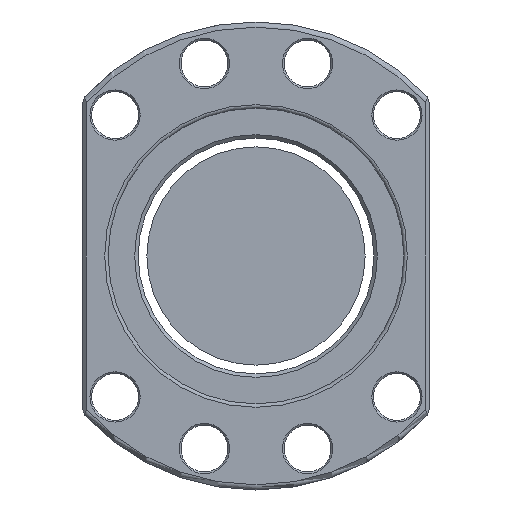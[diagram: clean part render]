
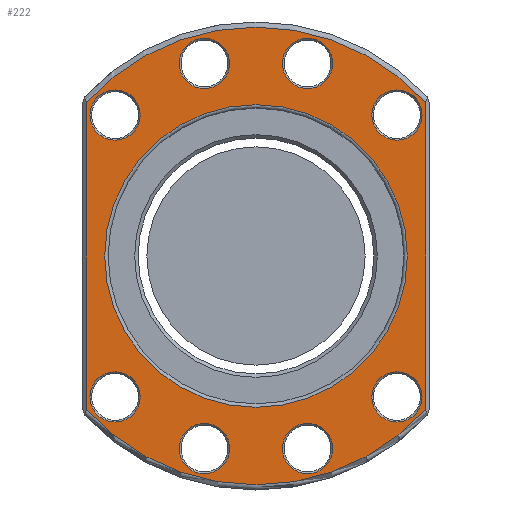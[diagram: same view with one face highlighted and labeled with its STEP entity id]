
A CAD part, front view. The second image highlights one B-rep face of the part: STEP entity #222.
In plain terms, the highlighted planar face has unit normal (0, -1, 0).
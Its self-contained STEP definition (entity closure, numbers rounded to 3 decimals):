
#39=LINE('',#1646,#63);
#40=LINE('',#1650,#64);
#63=VECTOR('',#1347,1.);
#64=VECTOR('',#1350,1.);
#167=PLANE('',#1141);
#222=ADVANCED_FACE('',(#337,#338,#339,#340,#341,#342,#343,#344,#345,#346),
#167,.F.);
#337=FACE_BOUND('',#469,.T.);
#338=FACE_BOUND('',#470,.T.);
#339=FACE_BOUND('',#471,.T.);
#340=FACE_BOUND('',#472,.T.);
#341=FACE_BOUND('',#473,.T.);
#342=FACE_BOUND('',#474,.T.);
#343=FACE_BOUND('',#475,.T.);
#344=FACE_BOUND('',#476,.T.);
#345=FACE_BOUND('',#477,.T.);
#346=FACE_BOUND('',#478,.T.);
#469=EDGE_LOOP('',(#617));
#470=EDGE_LOOP('',(#618));
#471=EDGE_LOOP('',(#619));
#472=EDGE_LOOP('',(#620));
#473=EDGE_LOOP('',(#621));
#474=EDGE_LOOP('',(#622));
#475=EDGE_LOOP('',(#623));
#476=EDGE_LOOP('',(#624));
#477=EDGE_LOOP('',(#625));
#478=EDGE_LOOP('',(#626,#627,#628,#629));
#617=ORIENTED_EDGE('',*,*,#920,.T.);
#618=ORIENTED_EDGE('',*,*,#921,.T.);
#619=ORIENTED_EDGE('',*,*,#922,.T.);
#620=ORIENTED_EDGE('',*,*,#923,.T.);
#621=ORIENTED_EDGE('',*,*,#924,.T.);
#622=ORIENTED_EDGE('',*,*,#925,.T.);
#623=ORIENTED_EDGE('',*,*,#926,.T.);
#624=ORIENTED_EDGE('',*,*,#927,.T.);
#625=ORIENTED_EDGE('',*,*,#928,.T.);
#626=ORIENTED_EDGE('',*,*,#929,.T.);
#627=ORIENTED_EDGE('',*,*,#930,.T.);
#628=ORIENTED_EDGE('',*,*,#931,.T.);
#629=ORIENTED_EDGE('',*,*,#932,.T.);
#823=VERTEX_POINT('',#1626);
#824=VERTEX_POINT('',#1628);
#825=VERTEX_POINT('',#1630);
#826=VERTEX_POINT('',#1632);
#827=VERTEX_POINT('',#1634);
#828=VERTEX_POINT('',#1636);
#829=VERTEX_POINT('',#1638);
#830=VERTEX_POINT('',#1640);
#831=VERTEX_POINT('',#1642);
#832=VERTEX_POINT('',#1644);
#833=VERTEX_POINT('',#1645);
#834=VERTEX_POINT('',#1647);
#835=VERTEX_POINT('',#1649);
#920=EDGE_CURVE('',#823,#823,#1033,.T.);
#921=EDGE_CURVE('',#824,#824,#1034,.T.);
#922=EDGE_CURVE('',#825,#825,#1035,.T.);
#923=EDGE_CURVE('',#826,#826,#1036,.T.);
#924=EDGE_CURVE('',#827,#827,#1037,.T.);
#925=EDGE_CURVE('',#828,#828,#1038,.T.);
#926=EDGE_CURVE('',#829,#829,#1039,.T.);
#927=EDGE_CURVE('',#830,#830,#1040,.T.);
#928=EDGE_CURVE('',#831,#831,#1041,.T.);
#929=EDGE_CURVE('',#832,#833,#1042,.T.);
#930=EDGE_CURVE('',#833,#834,#39,.T.);
#931=EDGE_CURVE('',#834,#835,#1043,.T.);
#932=EDGE_CURVE('',#835,#832,#40,.T.);
#1033=CIRCLE('',#1130,7.25);
#1034=CIRCLE('',#1131,7.25);
#1035=CIRCLE('',#1132,7.25);
#1036=CIRCLE('',#1133,7.25);
#1037=CIRCLE('',#1134,7.25);
#1038=CIRCLE('',#1135,7.25);
#1039=CIRCLE('',#1136,7.25);
#1040=CIRCLE('',#1137,7.25);
#1041=CIRCLE('',#1138,43.65);
#1042=CIRCLE('',#1139,66.);
#1043=CIRCLE('',#1140,66.);
#1130=AXIS2_PLACEMENT_3D('',#1625,#1327,#1328);
#1131=AXIS2_PLACEMENT_3D('',#1627,#1329,#1330);
#1132=AXIS2_PLACEMENT_3D('',#1629,#1331,#1332);
#1133=AXIS2_PLACEMENT_3D('',#1631,#1333,#1334);
#1134=AXIS2_PLACEMENT_3D('',#1633,#1335,#1336);
#1135=AXIS2_PLACEMENT_3D('',#1635,#1337,#1338);
#1136=AXIS2_PLACEMENT_3D('',#1637,#1339,#1340);
#1137=AXIS2_PLACEMENT_3D('',#1639,#1341,#1342);
#1138=AXIS2_PLACEMENT_3D('',#1641,#1343,#1344);
#1139=AXIS2_PLACEMENT_3D('',#1643,#1345,#1346);
#1140=AXIS2_PLACEMENT_3D('',#1648,#1348,#1349);
#1141=AXIS2_PLACEMENT_3D('',#1651,#1351,#1352);
#1327=DIRECTION('',(0.,1.,0.));
#1328=DIRECTION('',(0.,0.,1.));
#1329=DIRECTION('',(0.,1.,0.));
#1330=DIRECTION('',(0.,0.,1.));
#1331=DIRECTION('',(0.,1.,0.));
#1332=DIRECTION('',(0.,0.,1.));
#1333=DIRECTION('',(0.,1.,0.));
#1334=DIRECTION('',(0.,0.,1.));
#1335=DIRECTION('',(0.,1.,0.));
#1336=DIRECTION('',(0.,0.,1.));
#1337=DIRECTION('',(0.,1.,0.));
#1338=DIRECTION('',(0.,0.,1.));
#1339=DIRECTION('',(0.,1.,0.));
#1340=DIRECTION('',(0.,0.,1.));
#1341=DIRECTION('',(0.,1.,0.));
#1342=DIRECTION('',(0.,0.,1.));
#1343=DIRECTION('',(0.,1.,0.));
#1344=DIRECTION('',(0.,0.,1.));
#1345=DIRECTION('',(0.,-1.,0.));
#1346=DIRECTION('',(0.,0.,1.));
#1347=DIRECTION('',(0.,0.,1.));
#1348=DIRECTION('',(0.,-1.,0.));
#1349=DIRECTION('',(0.,0.,1.));
#1350=DIRECTION('',(0.,0.,-1.));
#1351=DIRECTION('',(0.,1.,0.));
#1352=DIRECTION('',(0.,0.,1.));
#1625=CARTESIAN_POINT('',(-14.882,0.,55.541));
#1626=CARTESIAN_POINT('',(-14.882,0.,62.791));
#1627=CARTESIAN_POINT('',(40.659,0.,40.659));
#1628=CARTESIAN_POINT('',(40.659,0.,47.909));
#1629=CARTESIAN_POINT('',(-14.882,0.,-55.541));
#1630=CARTESIAN_POINT('',(-14.882,0.,-48.291));
#1631=CARTESIAN_POINT('',(14.882,0.,55.541));
#1632=CARTESIAN_POINT('',(14.882,0.,62.791));
#1633=CARTESIAN_POINT('',(40.659,0.,-40.659));
#1634=CARTESIAN_POINT('',(40.659,0.,-33.409));
#1635=CARTESIAN_POINT('',(-40.659,0.,40.659));
#1636=CARTESIAN_POINT('',(-40.659,0.,47.909));
#1637=CARTESIAN_POINT('',(-40.659,0.,-40.659));
#1638=CARTESIAN_POINT('',(-40.659,0.,-33.409));
#1639=CARTESIAN_POINT('',(14.882,0.,-55.541));
#1640=CARTESIAN_POINT('',(14.882,0.,-48.291));
#1641=CARTESIAN_POINT('',(0.,0.,0.));
#1642=CARTESIAN_POINT('',(0.,0.,43.65));
#1643=CARTESIAN_POINT('',(0.,0.,0.));
#1644=CARTESIAN_POINT('',(-49.,0.,-44.215));
#1645=CARTESIAN_POINT('',(49.,0.,-44.215));
#1646=CARTESIAN_POINT('',(49.,0.,43.081));
#1647=CARTESIAN_POINT('',(49.,0.,44.215));
#1648=CARTESIAN_POINT('',(0.,0.,0.));
#1649=CARTESIAN_POINT('',(-49.,0.,44.215));
#1650=CARTESIAN_POINT('',(-49.,0.,-43.081));
#1651=CARTESIAN_POINT('',(0.,0.,0.));
